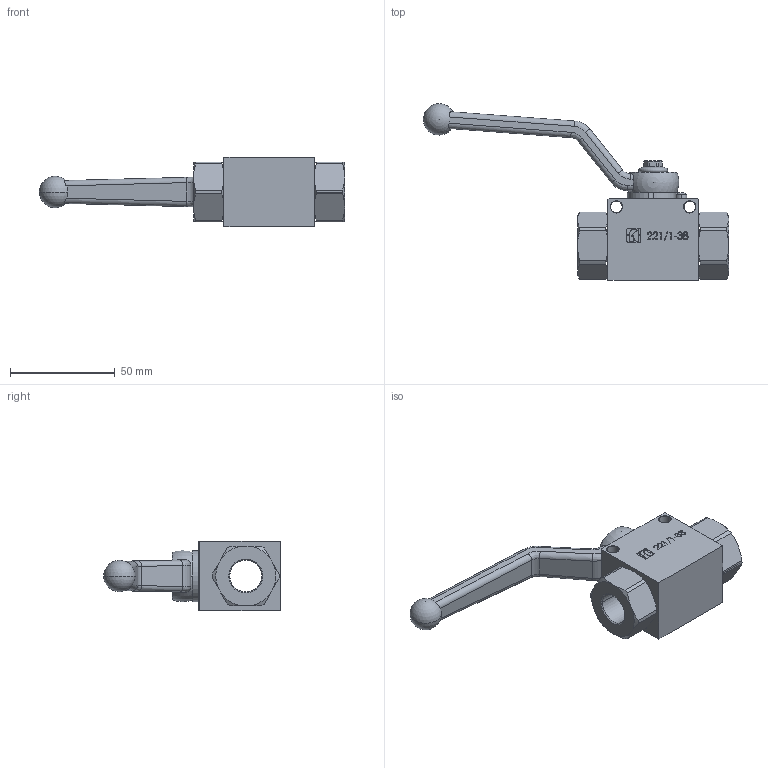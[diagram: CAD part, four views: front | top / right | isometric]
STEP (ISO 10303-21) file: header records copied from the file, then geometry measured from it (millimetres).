
FILE_DESCRIPTION (( 'STEP AP214' ), '1' );
FILE_NAME ('221-1-38.STEP', '2015-05-15T13:11:39', ( '' ), ( '' ), 'SwSTEP 2.0', 'SolidWorks 2014', '' );
FILE_SCHEMA (( 'AUTOMOTIVE_DESIGN' ));
Length unit declared in the file: millimetre
Products named in the file (1): 221-1-38
Bounding box: 145.5 x 84.25 x 33 mm (x, y, z)
Surface area: 19403.3 mm2 (no closed solid volume)
Topology: 0 solids, 3 shells, 232 faces, 718 edges, 477 vertices
Faces by surface type: plane 89, cylinder 57, bspline 49, cone 28, sphere 5, torus 4
Entity records: 13296 total; most frequent: CARTESIAN_POINT 4816, ORIENTED_EDGE 1274, DIRECTION 1075, EDGE_CURVE 705, VERTEX_POINT 469, VECTOR 359, LINE 359, AXIS2_PLACEMENT_3D 358
